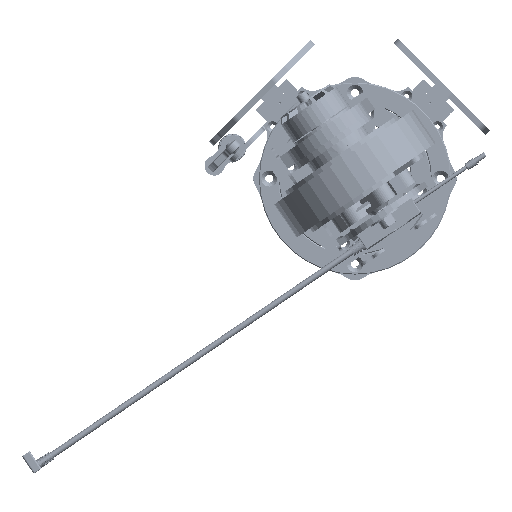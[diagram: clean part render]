
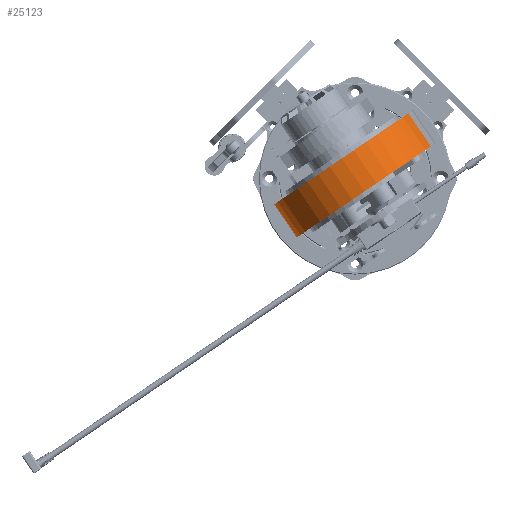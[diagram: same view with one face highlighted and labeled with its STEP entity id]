
A CAD part, front view. The second image highlights one B-rep face of the part: STEP entity #25123.
In plain terms, the highlighted cylindrical face has radius 52.5 mm (diameter 105 mm), a partial arc.
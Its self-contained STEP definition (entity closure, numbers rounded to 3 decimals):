
#10242 = AXIS2_PLACEMENT_3D ( 'NONE', #281216, #252373, #144123 ) ;
#10885 = AXIS2_PLACEMENT_3D ( 'NONE', #206015, #151805, #315891 ) ;
#18908 = VECTOR ( 'NONE', #279467, 1000. ) ;
#19869 = EDGE_LOOP ( 'NONE', ( #244637, #239266, #209283, #322112 ) ) ;
#25123 = ADVANCED_FACE ( 'NONE', ( #128351 ), #41952, .T. ) ;
#32319 = VERTEX_POINT ( 'NONE', #224219 ) ;
#41952 = CYLINDRICAL_SURFACE ( 'NONE', #10885, 52.5 ) ;
#47045 = AXIS2_PLACEMENT_3D ( 'NONE', #290900, #99802, #208089 ) ;
#81181 = EDGE_CURVE ( 'NONE', #290274, #162956, #237142, .T. ) ;
#99802 = DIRECTION ( 'NONE',  ( 0., 0., -1. ) ) ;
#128351 = FACE_OUTER_BOUND ( 'NONE', #19869, .T. ) ;
#144123 = DIRECTION ( 'NONE',  ( -1., 0., 0. ) ) ;
#151805 = DIRECTION ( 'NONE',  ( 0., 0., -1. ) ) ;
#153096 = EDGE_CURVE ( 'NONE', #32319, #162956, #225370, .T. ) ;
#159423 = EDGE_CURVE ( 'NONE', #265966, #32319, #194440, .T. ) ;
#162956 = VERTEX_POINT ( 'NONE', #169950 ) ;
#169950 = CARTESIAN_POINT ( 'NONE',  ( 52.5, 0., -12.5 ) ) ;
#174633 = DIRECTION ( 'NONE',  ( 0., 0., -1. ) ) ;
#194440 = CIRCLE ( 'NONE', #10242, 52.5 ) ;
#196415 = LINE ( 'NONE', #306309, #249271 ) ;
#206015 = CARTESIAN_POINT ( 'NONE',  ( 0., 0., -12.5 ) ) ;
#208089 = DIRECTION ( 'NONE',  ( -1., 0., 0. ) ) ;
#209283 = ORIENTED_EDGE ( 'NONE', *, *, #81181, .F. ) ;
#221711 = CARTESIAN_POINT ( 'NONE',  ( -52.5, 0., -12.5 ) ) ;
#224219 = CARTESIAN_POINT ( 'NONE',  ( 52.5, 0., 12.5 ) ) ;
#225370 = LINE ( 'NONE', #335336, #18908 ) ;
#237142 = CIRCLE ( 'NONE', #47045, 52.5 ) ;
#239266 = ORIENTED_EDGE ( 'NONE', *, *, #153096, .T. ) ;
#244637 = ORIENTED_EDGE ( 'NONE', *, *, #159423, .T. ) ;
#249271 = VECTOR ( 'NONE', #174633, 1000. ) ;
#252373 = DIRECTION ( 'NONE',  ( 0., 0., -1. ) ) ;
#265966 = VERTEX_POINT ( 'NONE', #327347 ) ;
#279467 = DIRECTION ( 'NONE',  ( 0., 0., -1. ) ) ;
#281216 = CARTESIAN_POINT ( 'NONE',  ( 0., 0., 12.5 ) ) ;
#290274 = VERTEX_POINT ( 'NONE', #221711 ) ;
#290900 = CARTESIAN_POINT ( 'NONE',  ( 0., 0., -12.5 ) ) ;
#306309 = CARTESIAN_POINT ( 'NONE',  ( -52.5, 0., -12.5 ) ) ;
#315891 = DIRECTION ( 'NONE',  ( -1., 0., 0. ) ) ;
#322112 = ORIENTED_EDGE ( 'NONE', *, *, #348561, .F. ) ;
#327347 = CARTESIAN_POINT ( 'NONE',  ( -52.5, 0., 12.5 ) ) ;
#335336 = CARTESIAN_POINT ( 'NONE',  ( 52.5, 0., -12.5 ) ) ;
#348561 = EDGE_CURVE ( 'NONE', #265966, #290274, #196415, .T. ) ;
